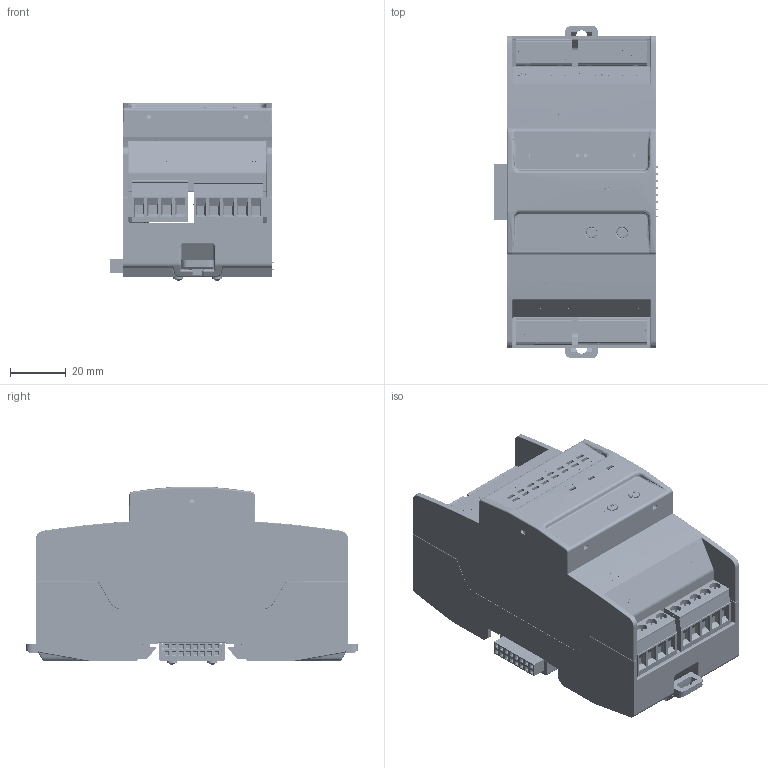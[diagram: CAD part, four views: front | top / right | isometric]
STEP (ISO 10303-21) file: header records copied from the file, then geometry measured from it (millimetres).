
FILE_DESCRIPTION (( 'STEP AP214' ), '1' );
FILE_NAME ('DO-16.STEP', '2020-11-06T11:34:24', ( '' ), ( '' ), 'SwSTEP 2.0', 'SolidWorks 2018', '' );
FILE_SCHEMA (( 'AUTOMOTIVE_DESIGN' ));
Length unit declared in the file: millimetre
Products named in the file (1): DO-16
Bounding box: 58.87 x 119 x 64.1 mm (x, y, z)
Volume: 81592.8 mm3; surface area: 88109 mm2
Topology: 9 solids, 9 shells, 9926 faces, 25305 edges, 15644 vertices
Faces by surface type: plane 4952, cylinder 2427, bspline 1646, torus 523, sphere 308, cone 70
Full cylindrical faces by diameter (mm): 0.5 x20, 0.609 x4, 1.2 x16, 1.4 x18, 1.5 x6, 1.8 x2, 2.2 x4, 2.8 x14, 3.5 x4, 3.783 x18, 4 x26, 5.5 x4, 6 x4, 7 x2
Entity records: 343723 total; most frequent: CARTESIAN_POINT 118796, ORIENTED_EDGE 49662, DIRECTION 41458, EDGE_CURVE 24831, VERTEX_POINT 15587, VECTOR 14314, LINE 14314, AXIS2_PLACEMENT_3D 13572
